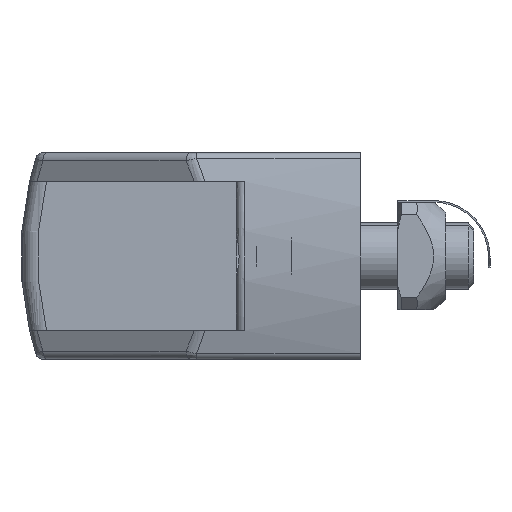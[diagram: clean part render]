
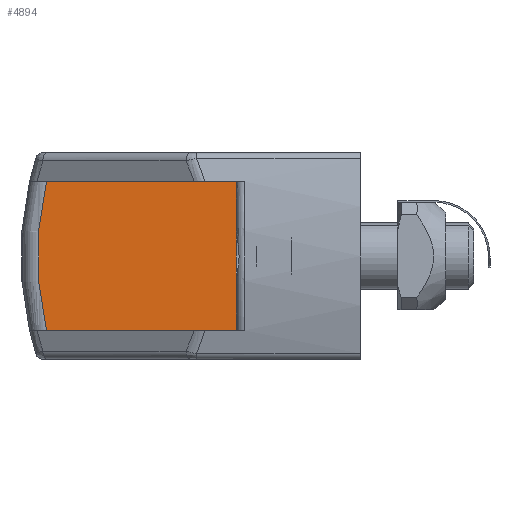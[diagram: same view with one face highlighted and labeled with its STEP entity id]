
A CAD part, front view. The second image highlights one B-rep face of the part: STEP entity #4894.
In plain terms, the highlighted planar face has unit normal (0, -1, 0).
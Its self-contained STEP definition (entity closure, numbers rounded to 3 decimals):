
#49 = CARTESIAN_POINT ( 'NONE',  ( -28.717, -39.218, -11.044 ) ) ;
#254 = VERTEX_POINT ( 'NONE', #11550 ) ;
#941 = DIRECTION ( 'NONE',  ( 0., 0., -1. ) ) ;
#984 = CARTESIAN_POINT ( 'NONE',  ( -5.796, -39.218, 6.956 ) ) ;
#1077 = LINE ( 'NONE', #7537, #10390 ) ;
#1335 = AXIS2_PLACEMENT_3D ( 'NONE', #6261, #5486, #7198 ) ;
#1622 = PLANE ( 'NONE',  #8354 ) ;
#1753 = VECTOR ( 'NONE', #3043, 1000. ) ;
#2101 = DIRECTION ( 'NONE',  ( -1., 0., 0. ) ) ;
#2240 = ORIENTED_EDGE ( 'NONE', *, *, #9590, .T. ) ;
#2868 = CIRCLE ( 'NONE', #1335, 38.063 ) ;
#3043 = DIRECTION ( 'NONE',  ( 1., 0., 0. ) ) ;
#3559 = VECTOR ( 'NONE', #2101, 1000. ) ;
#3594 = DIRECTION ( 'NONE',  ( 0., -1., 0. ) ) ;
#3680 = VERTEX_POINT ( 'NONE', #49 ) ;
#3894 = ORIENTED_EDGE ( 'NONE', *, *, #9534, .T. ) ;
#4731 = LINE ( 'NONE', #4862, #3559 ) ;
#4862 = CARTESIAN_POINT ( 'NONE',  ( -5.796, -39.218, 6.956 ) ) ;
#4894 = ADVANCED_FACE ( 'NONE', ( #8706 ), #1622, .T. ) ;
#5151 = EDGE_LOOP ( 'NONE', ( #2240, #3894, #9785, #9289 ) ) ;
#5221 = EDGE_CURVE ( 'NONE', #3680, #8298, #2868, .T. ) ;
#5486 = DIRECTION ( 'NONE',  ( 0., 1., 0. ) ) ;
#6155 = EDGE_CURVE ( 'NONE', #3680, #254, #10230, .T. ) ;
#6261 = CARTESIAN_POINT ( 'NONE',  ( 8.266, -39.218, -2.044 ) ) ;
#7198 = DIRECTION ( 'NONE',  ( -0.972, 0., -0.236 ) ) ;
#7510 = CARTESIAN_POINT ( 'NONE',  ( -28.717, -39.218, -11.044 ) ) ;
#7537 = CARTESIAN_POINT ( 'NONE',  ( -5.796, -39.218, -11.044 ) ) ;
#8269 = CARTESIAN_POINT ( 'NONE',  ( -28.717, -39.218, 6.956 ) ) ;
#8298 = VERTEX_POINT ( 'NONE', #8269 ) ;
#8354 = AXIS2_PLACEMENT_3D ( 'NONE', #9945, #3594, #941 ) ;
#8706 = FACE_OUTER_BOUND ( 'NONE', #5151, .T. ) ;
#9289 = ORIENTED_EDGE ( 'NONE', *, *, #6155, .T. ) ;
#9534 = EDGE_CURVE ( 'NONE', #11614, #8298, #4731, .T. ) ;
#9590 = EDGE_CURVE ( 'NONE', #254, #11614, #1077, .T. ) ;
#9785 = ORIENTED_EDGE ( 'NONE', *, *, #5221, .F. ) ;
#9945 = CARTESIAN_POINT ( 'NONE',  ( -5.316, -39.218, -2.044 ) ) ;
#10230 = LINE ( 'NONE', #7510, #1753 ) ;
#10390 = VECTOR ( 'NONE', #10977, 1000. ) ;
#10977 = DIRECTION ( 'NONE',  ( 0., 0., 1. ) ) ;
#11550 = CARTESIAN_POINT ( 'NONE',  ( -5.796, -39.218, -11.044 ) ) ;
#11614 = VERTEX_POINT ( 'NONE', #984 ) ;
